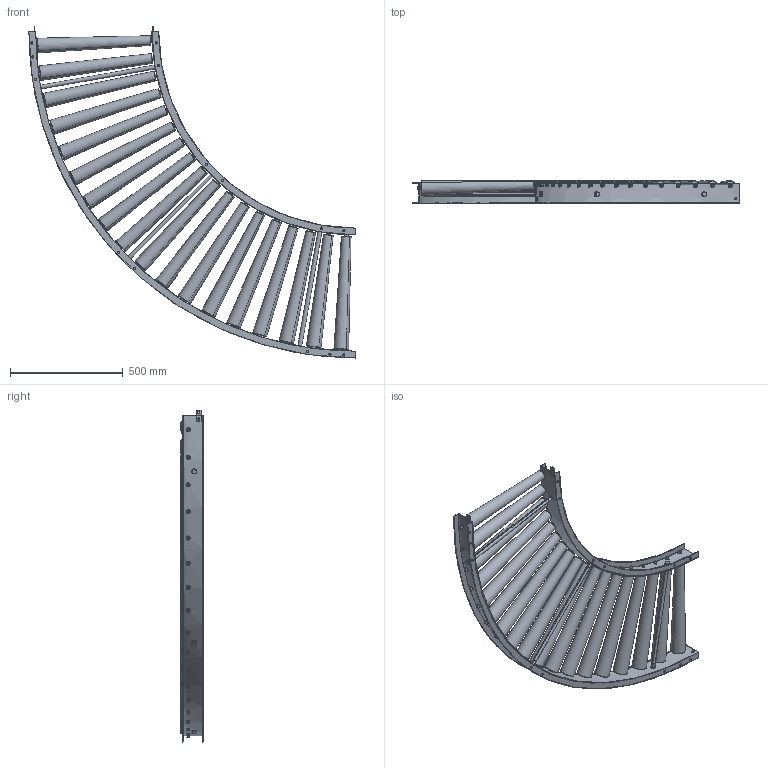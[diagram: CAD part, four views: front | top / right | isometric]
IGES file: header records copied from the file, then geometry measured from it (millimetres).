
Start section: SolidWorks IGES file using analytic representation for surfaces
Global section: file name: C:\Users\0656\Desktop\変換ツール\iges変換\R-TC900A_C.igs; native system: SolidWorks 2023; preprocessor: SolidWorks 2023; author: 0656; date: 240315.112241; units: millimetre
Bounding box: 1445 x 100.17 x 1470.1 mm (x, y, z)
Surface area: 3847775.1 mm2 (no closed solid volume)
Topology: 0 solids, 0 shells, 820 faces, 17884 edges, 17884 vertices
Faces by surface type: revolution 442, bspline 378
